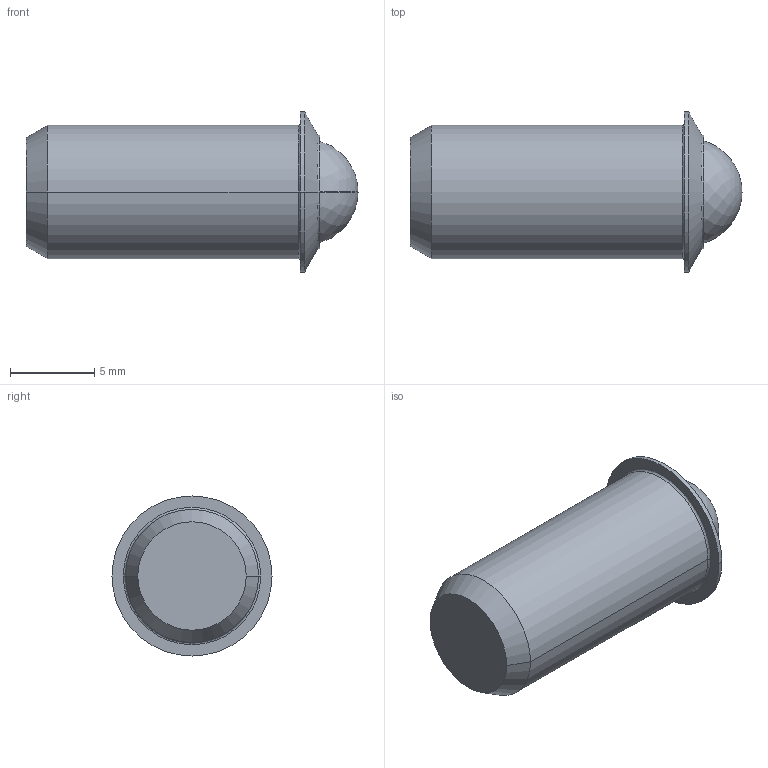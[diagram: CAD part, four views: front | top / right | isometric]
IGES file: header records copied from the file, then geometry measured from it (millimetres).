
Start section:  PTC IGES file: pfb56-part-3d.igs
Global section: file name: pfb56-part-3d.igs; native system: Pro/ENGINEER by Parametric Technology Corporation; preprocessor: 2002350; author: chant; organization: Unknown; date: 070201.163735; units: inch
Bounding box: 19.76 x 9.53 x 9.53 mm (x, y, z)
Surface area: 927.8 mm2 (no closed solid volume)
Topology: 0 solids, 0 shells, 20 faces, 101 edges, 111 vertices
Faces by surface type: revolution 16, bspline 4
